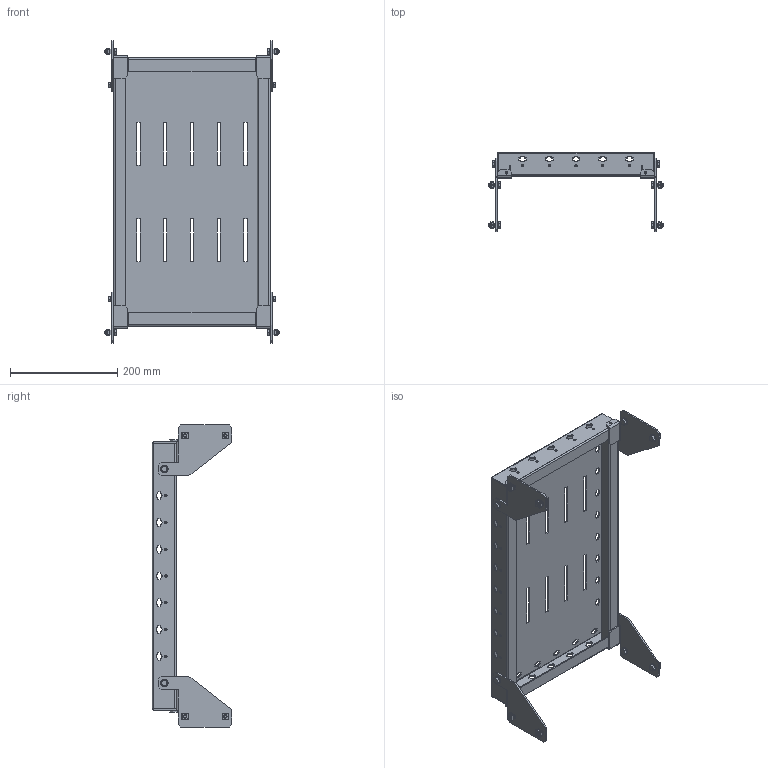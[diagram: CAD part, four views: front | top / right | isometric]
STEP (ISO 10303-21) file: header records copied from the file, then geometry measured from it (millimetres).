
FILE_DESCRIPTION (( 'STEP AP203' ), '1' );
FILE_NAME ('R5RFE46.STEP', '2022-06-29T08:38:13', ( '' ), ( '' ), 'SwSTEP 2.0', 'SolidWorks 2020', '' );
FILE_SCHEMA (( 'CONFIG_CONTROL_DESIGN' ));
Length unit declared in the file: millimetre
Products named in the file (7): M6x16 DIN 6921 cl.8,8 Zinc_thread; RB.1704.00.00.0_- 01; M6 A3400002 Zinc_thread; RB.1704.00.00.0_-00; RB.2364.00.00.0; Ì6 D87181 Zinc_In a tightened position (1.5 mm); R5RFE46
Assembly tree (29 placements, depth 2):
  R5RFE46
    RB.2364.00.00.0
    RB.1704.00.00.0_- 01  x2
    M6 A3400002 Zinc_thread  x8
    M6x16 DIN 6921 cl.8,8 Zinc_thread  x12
    RB.1704.00.00.0_-00  x2
    Ì6 D87181 Zinc_In a tightened position (1.5 mm)  x4
Bounding box: 326 x 148.6 x 565 mm (x, y, z)
Volume: 634094.2 mm3; surface area: 622357.7 mm2
Topology: 29 solids, 29 shells, 4610 faces, 12544 edges, 7940 vertices
Faces by surface type: cylinder 1764, plane 1458, cone 1076, bspline 216, torus 96
Entity records: 59434 total; most frequent: CARTESIAN_POINT 12457, DIRECTION 9783, ORIENTED_EDGE 9644, EDGE_CURVE 4822, AXIS2_PLACEMENT_3D 3531, VERTEX_POINT 3127, LINE 2721, VECTOR 2721
